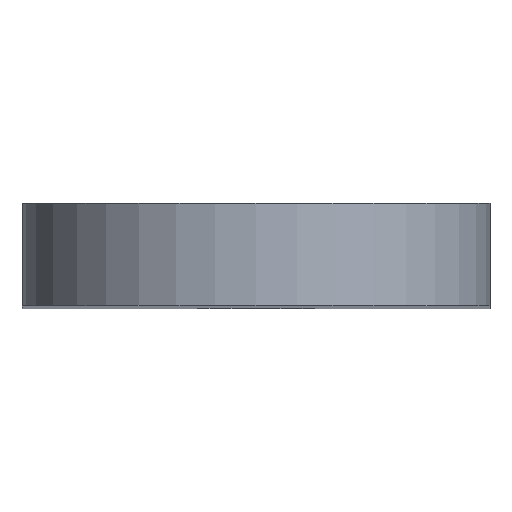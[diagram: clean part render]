
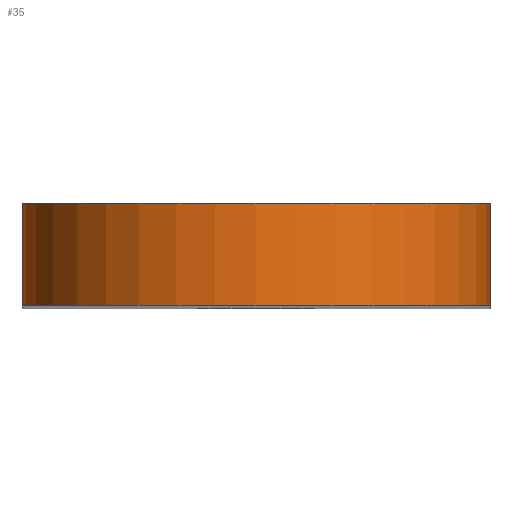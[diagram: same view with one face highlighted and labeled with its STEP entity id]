
A CAD part, top view. The second image highlights one B-rep face of the part: STEP entity #35.
In plain terms, the highlighted cylindrical face has radius 16 mm (diameter 32 mm), a partial arc.
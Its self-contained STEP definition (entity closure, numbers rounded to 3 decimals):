
#35 = ADVANCED_FACE('',(#36),#50,.T.);
#36 = FACE_BOUND('',#37,.F.);
#37 = EDGE_LOOP('',(#38,#73,#102,#130));
#38 = ORIENTED_EDGE('',*,*,#39,.T.);
#39 = EDGE_CURVE('',#40,#42,#44,.T.);
#40 = VERTEX_POINT('',#41);
#41 = CARTESIAN_POINT('',(16.,0.,0.));
#42 = VERTEX_POINT('',#43);
#43 = CARTESIAN_POINT('',(16.,-7.,0.));
#44 = SURFACE_CURVE('',#45,(#49,#61),.PCURVE_S1.);
#45 = LINE('',#46,#47);
#46 = CARTESIAN_POINT('',(16.,0.,0.));
#47 = VECTOR('',#48,1.);
#48 = DIRECTION('',(0.,-1.,0.));
#49 = PCURVE('',#50,#55);
#50 = CYLINDRICAL_SURFACE('',#51,16.);
#51 = AXIS2_PLACEMENT_3D('',#52,#53,#54);
#52 = CARTESIAN_POINT('',(0.,0.,0.));
#53 = DIRECTION('',(-0.,1.,-0.));
#54 = DIRECTION('',(1.,0.,0.));
#55 = DEFINITIONAL_REPRESENTATION('',(#56),#60);
#56 = LINE('',#57,#58);
#57 = CARTESIAN_POINT('',(-0.,0.));
#58 = VECTOR('',#59,1.);
#59 = DIRECTION('',(-0.,-1.));
#60 = ( GEOMETRIC_REPRESENTATION_CONTEXT(2) 
PARAMETRIC_REPRESENTATION_CONTEXT() REPRESENTATION_CONTEXT('2D SPACE',''
  ) );
#61 = PCURVE('',#62,#67);
#62 = PLANE('',#63);
#63 = AXIS2_PLACEMENT_3D('',#64,#65,#66);
#64 = CARTESIAN_POINT('',(16.,0.,-110.));
#65 = DIRECTION('',(-1.,0.,0.));
#66 = DIRECTION('',(0.,0.,1.));
#67 = DEFINITIONAL_REPRESENTATION('',(#68),#72);
#68 = LINE('',#69,#70);
#69 = CARTESIAN_POINT('',(110.,0.));
#70 = VECTOR('',#71,1.);
#71 = DIRECTION('',(0.,-1.));
#72 = ( GEOMETRIC_REPRESENTATION_CONTEXT(2) 
PARAMETRIC_REPRESENTATION_CONTEXT() REPRESENTATION_CONTEXT('2D SPACE',''
  ) );
#73 = ORIENTED_EDGE('',*,*,#74,.T.);
#74 = EDGE_CURVE('',#42,#75,#77,.T.);
#75 = VERTEX_POINT('',#76);
#76 = CARTESIAN_POINT('',(-16.,-7.,0.));
#77 = SURFACE_CURVE('',#78,(#83,#90),.PCURVE_S1.);
#78 = CIRCLE('',#79,16.);
#79 = AXIS2_PLACEMENT_3D('',#80,#81,#82);
#80 = CARTESIAN_POINT('',(0.,-7.,0.));
#81 = DIRECTION('',(0.,-1.,0.));
#82 = DIRECTION('',(1.,0.,0.));
#83 = PCURVE('',#50,#84);
#84 = DEFINITIONAL_REPRESENTATION('',(#85),#89);
#85 = LINE('',#86,#87);
#86 = CARTESIAN_POINT('',(-0.,-7.));
#87 = VECTOR('',#88,1.);
#88 = DIRECTION('',(-1.,0.));
#89 = ( GEOMETRIC_REPRESENTATION_CONTEXT(2) 
PARAMETRIC_REPRESENTATION_CONTEXT() REPRESENTATION_CONTEXT('2D SPACE',''
  ) );
#90 = PCURVE('',#91,#96);
#91 = PLANE('',#92);
#92 = AXIS2_PLACEMENT_3D('',#93,#94,#95);
#93 = CARTESIAN_POINT('',(0.,-7.,0.));
#94 = DIRECTION('',(0.,-1.,0.));
#95 = DIRECTION('',(1.,0.,0.));
#96 = DEFINITIONAL_REPRESENTATION('',(#97),#101);
#97 = CIRCLE('',#98,16.);
#98 = AXIS2_PLACEMENT_2D('',#99,#100);
#99 = CARTESIAN_POINT('',(0.,0.));
#100 = DIRECTION('',(1.,0.));
#101 = ( GEOMETRIC_REPRESENTATION_CONTEXT(2) 
PARAMETRIC_REPRESENTATION_CONTEXT() REPRESENTATION_CONTEXT('2D SPACE',''
  ) );
#102 = ORIENTED_EDGE('',*,*,#103,.F.);
#103 = EDGE_CURVE('',#104,#75,#106,.T.);
#104 = VERTEX_POINT('',#105);
#105 = CARTESIAN_POINT('',(-16.,0.,0.));
#106 = SURFACE_CURVE('',#107,(#111,#118),.PCURVE_S1.);
#107 = LINE('',#108,#109);
#108 = CARTESIAN_POINT('',(-16.,0.,0.));
#109 = VECTOR('',#110,1.);
#110 = DIRECTION('',(0.,-1.,0.));
#111 = PCURVE('',#50,#112);
#112 = DEFINITIONAL_REPRESENTATION('',(#113),#117);
#113 = LINE('',#114,#115);
#114 = CARTESIAN_POINT('',(-3.142,0.));
#115 = VECTOR('',#116,1.);
#116 = DIRECTION('',(-0.,-1.));
#117 = ( GEOMETRIC_REPRESENTATION_CONTEXT(2) 
PARAMETRIC_REPRESENTATION_CONTEXT() REPRESENTATION_CONTEXT('2D SPACE',''
  ) );
#118 = PCURVE('',#119,#124);
#119 = PLANE('',#120);
#120 = AXIS2_PLACEMENT_3D('',#121,#122,#123);
#121 = CARTESIAN_POINT('',(-16.,0.,-110.));
#122 = DIRECTION('',(-1.,0.,0.));
#123 = DIRECTION('',(0.,0.,1.));
#124 = DEFINITIONAL_REPRESENTATION('',(#125),#129);
#125 = LINE('',#126,#127);
#126 = CARTESIAN_POINT('',(110.,0.));
#127 = VECTOR('',#128,1.);
#128 = DIRECTION('',(0.,-1.));
#129 = ( GEOMETRIC_REPRESENTATION_CONTEXT(2) 
PARAMETRIC_REPRESENTATION_CONTEXT() REPRESENTATION_CONTEXT('2D SPACE',''
  ) );
#130 = ORIENTED_EDGE('',*,*,#131,.F.);
#131 = EDGE_CURVE('',#40,#104,#132,.T.);
#132 = SURFACE_CURVE('',#133,(#138,#145),.PCURVE_S1.);
#133 = CIRCLE('',#134,16.);
#134 = AXIS2_PLACEMENT_3D('',#135,#136,#137);
#135 = CARTESIAN_POINT('',(0.,0.,0.));
#136 = DIRECTION('',(0.,-1.,0.));
#137 = DIRECTION('',(1.,0.,0.));
#138 = PCURVE('',#50,#139);
#139 = DEFINITIONAL_REPRESENTATION('',(#140),#144);
#140 = LINE('',#141,#142);
#141 = CARTESIAN_POINT('',(-0.,0.));
#142 = VECTOR('',#143,1.);
#143 = DIRECTION('',(-1.,0.));
#144 = ( GEOMETRIC_REPRESENTATION_CONTEXT(2) 
PARAMETRIC_REPRESENTATION_CONTEXT() REPRESENTATION_CONTEXT('2D SPACE',''
  ) );
#145 = PCURVE('',#146,#151);
#146 = PLANE('',#147);
#147 = AXIS2_PLACEMENT_3D('',#148,#149,#150);
#148 = CARTESIAN_POINT('',(0.,0.,0.));
#149 = DIRECTION('',(0.,-1.,0.));
#150 = DIRECTION('',(1.,0.,0.));
#151 = DEFINITIONAL_REPRESENTATION('',(#152),#156);
#152 = CIRCLE('',#153,16.);
#153 = AXIS2_PLACEMENT_2D('',#154,#155);
#154 = CARTESIAN_POINT('',(0.,0.));
#155 = DIRECTION('',(1.,0.));
#156 = ( GEOMETRIC_REPRESENTATION_CONTEXT(2) 
PARAMETRIC_REPRESENTATION_CONTEXT() REPRESENTATION_CONTEXT('2D SPACE',''
  ) );
